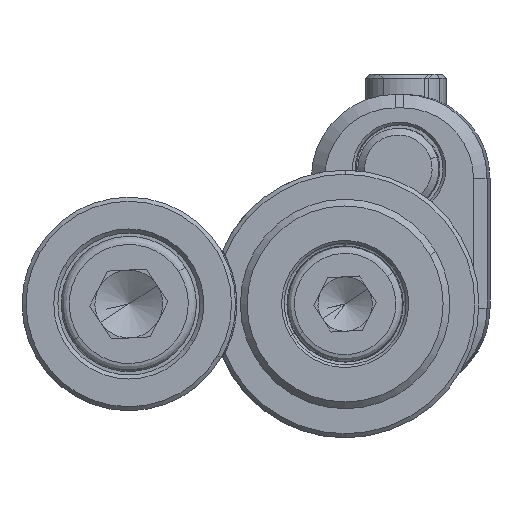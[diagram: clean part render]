
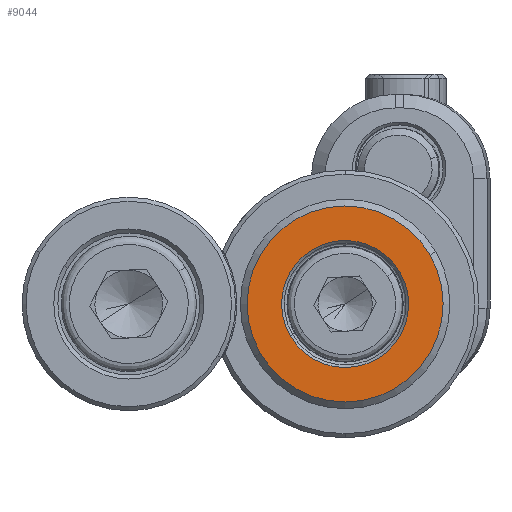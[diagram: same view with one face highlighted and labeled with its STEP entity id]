
A CAD part, front view. The second image highlights one B-rep face of the part: STEP entity #9044.
In plain terms, the highlighted planar face has unit normal (0, -1, 0).
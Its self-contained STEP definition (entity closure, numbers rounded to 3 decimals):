
#14 = ORIENTED_EDGE ( 'NONE', *, *, #4011, .T. ) ;
#225 = AXIS2_PLACEMENT_3D ( 'NONE', #5429, #10944, #8543 ) ;
#319 = CARTESIAN_POINT ( 'NONE',  ( 2.261, -4., -3.891 ) ) ;
#567 = DIRECTION ( 'NONE',  ( 0., 1., 0. ) ) ;
#647 = DIRECTION ( 'NONE',  ( -0.865, 0., -0.503 ) ) ;
#1222 = CARTESIAN_POINT ( 'NONE',  ( 4.063, -4., 2.362 ) ) ;
#1323 = DIRECTION ( 'NONE',  ( 0., 1., 0. ) ) ;
#1782 = CARTESIAN_POINT ( 'NONE',  ( 0., -4., 0. ) ) ;
#2120 = ORIENTED_EDGE ( 'NONE', *, *, #12527, .T. ) ;
#2739 = CIRCLE ( 'NONE', #225, 4.7 ) ;
#2848 = AXIS2_PLACEMENT_3D ( 'NONE', #1782, #567, #647 ) ;
#2933 = EDGE_CURVE ( 'NONE', #8875, #14013, #2739, .T. ) ;
#3034 = DIRECTION ( 'NONE',  ( -0.865, 0., -0.503 ) ) ;
#3578 = CIRCLE ( 'NONE', #14099, 7.25 ) ;
#3867 = CARTESIAN_POINT ( 'NONE',  ( 0., -4., 0. ) ) ;
#3941 = DIRECTION ( 'NONE',  ( -0.865, 0., -0.503 ) ) ;
#4011 = EDGE_CURVE ( 'NONE', #14013, #8875, #12667, .T. ) ;
#4195 = CARTESIAN_POINT ( 'NONE',  ( 0., -4., 0. ) ) ;
#4523 = EDGE_CURVE ( 'NONE', #5070, #9129, #8655, .T. ) ;
#5070 = VERTEX_POINT ( 'NONE', #13480 ) ;
#5284 = EDGE_LOOP ( 'NONE', ( #2120, #8469 ) ) ;
#5429 = CARTESIAN_POINT ( 'NONE',  ( 0., -4., 0. ) ) ;
#5527 = ORIENTED_EDGE ( 'NONE', *, *, #2933, .T. ) ;
#5538 = FACE_BOUND ( 'NONE', #6592, .T. ) ;
#6592 = EDGE_LOOP ( 'NONE', ( #14, #5527 ) ) ;
#7925 = PLANE ( 'NONE',  #13915 ) ;
#8228 = DIRECTION ( 'NONE',  ( 0., -1., 0. ) ) ;
#8469 = ORIENTED_EDGE ( 'NONE', *, *, #4523, .T. ) ;
#8543 = DIRECTION ( 'NONE',  ( -0.865, 0., -0.503 ) ) ;
#8655 = CIRCLE ( 'NONE', #9309, 7.25 ) ;
#8875 = VERTEX_POINT ( 'NONE', #13175 ) ;
#8965 = CARTESIAN_POINT ( 'NONE',  ( -6.268, -4., -3.643 ) ) ;
#9044 = ADVANCED_FACE ( 'NONE', ( #5538, #11995 ), #7925, .F. ) ;
#9129 = VERTEX_POINT ( 'NONE', #8965 ) ;
#9309 = AXIS2_PLACEMENT_3D ( 'NONE', #3867, #8228, #3941 ) ;
#9984 = DIRECTION ( 'NONE',  ( -0.865, 0., -0.503 ) ) ;
#10944 = DIRECTION ( 'NONE',  ( 0., 1., 0. ) ) ;
#11995 = FACE_OUTER_BOUND ( 'NONE', #5284, .T. ) ;
#12527 = EDGE_CURVE ( 'NONE', #9129, #5070, #3578, .T. ) ;
#12667 = CIRCLE ( 'NONE', #2848, 4.7 ) ;
#12763 = DIRECTION ( 'NONE',  ( 0., -1., 0. ) ) ;
#13175 = CARTESIAN_POINT ( 'NONE',  ( -4.063, -4., -2.362 ) ) ;
#13480 = CARTESIAN_POINT ( 'NONE',  ( 6.268, -4., 3.643 ) ) ;
#13915 = AXIS2_PLACEMENT_3D ( 'NONE', #319, #1323, #9984 ) ;
#14013 = VERTEX_POINT ( 'NONE', #1222 ) ;
#14099 = AXIS2_PLACEMENT_3D ( 'NONE', #4195, #12763, #3034 ) ;
